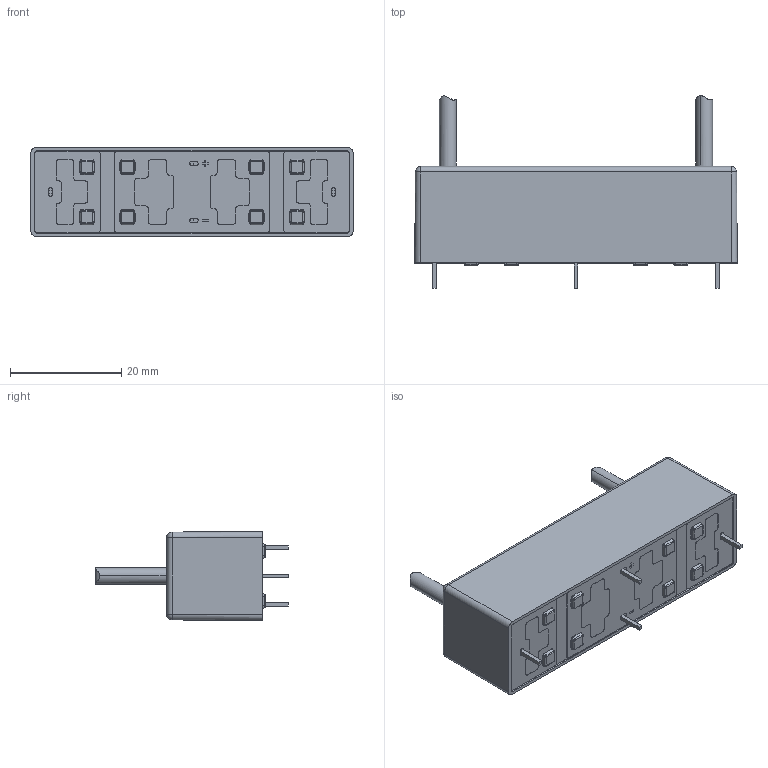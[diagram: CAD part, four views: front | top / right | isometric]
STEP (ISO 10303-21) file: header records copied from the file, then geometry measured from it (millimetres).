
FILE_DESCRIPTION (( 'STEP AP203' ), '1' );
FILE_NAME ('600 SERIES - 600 1A or B FT-1.STEP', '2025-06-30T15:23:44', ( '' ), ( '' ), 'SwSTEP 2.0', 'SolidWorks 2023', '' );
FILE_SCHEMA (( 'CONFIG_CONTROL_DESIGN' ));
Length unit declared in the file: millimetre
Products named in the file (1): 600 SERIES - 600 1A or B FT-1
Bounding box: 57.85 x 34.61 x 15.95 mm (x, y, z)
Volume: 2392 mm3; surface area: 8667.5 mm2
Topology: 40 solids, 40 shells, 897 faces, 2270 edges, 1456 vertices
Faces by surface type: plane 415, cylinder 348, bspline 98, sphere 36
Entity records: 27731 total; most frequent: CARTESIAN_POINT 7050, ORIENTED_EDGE 4540, DIRECTION 4070, EDGE_CURVE 2270, VERTEX_POINT 1456, AXIS2_PLACEMENT_3D 1392, LINE 1286, VECTOR 1286
